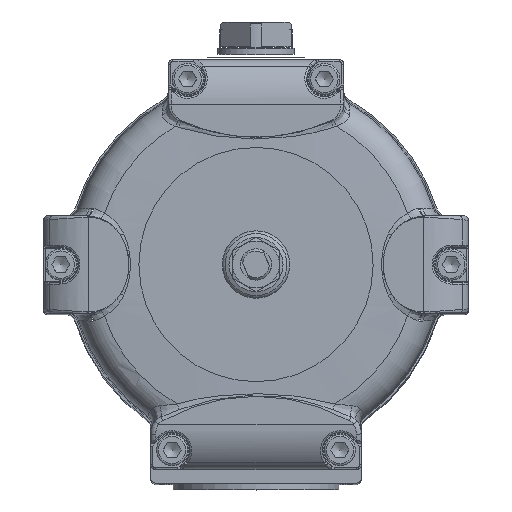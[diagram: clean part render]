
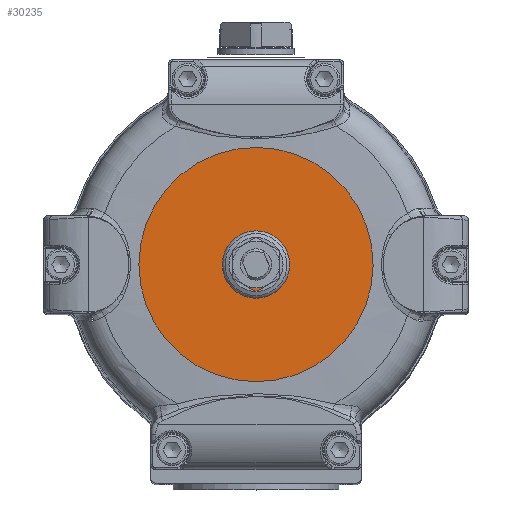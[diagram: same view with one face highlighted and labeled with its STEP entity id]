
A CAD part, top view. The second image highlights one B-rep face of the part: STEP entity #30235.
In plain terms, the highlighted planar face has unit normal (0, 0, 1).
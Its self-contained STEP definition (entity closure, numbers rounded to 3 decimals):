
#23767=CARTESIAN_POINT('',(-60.,0.,227.5));
#23768=VERTEX_POINT('',#23767);
#23769=CARTESIAN_POINT('',(0.,0.,227.5));
#23770=DIRECTION('',(0.0,0.0,-1.0));
#23771=DIRECTION('',(-1.0,0.0,0.0));
#23772=AXIS2_PLACEMENT_3D('',#23769,#23770,#23771);
#23773=CIRCLE('',#23772,60.0);
#23774=EDGE_CURVE('',#23768,#23768,#23773,.T.);
#30216=CARTESIAN_POINT('',(-30.,0.,227.5));
#30217=DIRECTION('',(0.0,0.0,1.0));
#30218=DIRECTION('',(0.0,-1.0,0.0));
#30219=AXIS2_PLACEMENT_3D('',#30216,#30217,#30218);
#30220=PLANE('',#30219);
#30221=ORIENTED_EDGE('',*,*,#23774,.F.);
#30222=EDGE_LOOP('',(#30221));
#30223=FACE_OUTER_BOUND('',#30222,.T.);
#30224=CARTESIAN_POINT('',(0.,-6.918,227.5));
#30225=VERTEX_POINT('',#30224);
#30226=CARTESIAN_POINT('',(0.,0.,227.5));
#30227=DIRECTION('',(0.0,0.0,-1.0));
#30228=DIRECTION('',(0.0,1.0,0.0));
#30229=AXIS2_PLACEMENT_3D('',#30226,#30227,#30228);
#30230=CIRCLE('',#30229,6.918);
#30231=EDGE_CURVE('',#30225,#30225,#30230,.T.);
#30232=ORIENTED_EDGE('',*,*,#30231,.T.);
#30233=EDGE_LOOP('',(#30232));
#30234=FACE_BOUND('',#30233,.T.);
#30235=ADVANCED_FACE('',(#30223,#30234),#30220,.T.);
